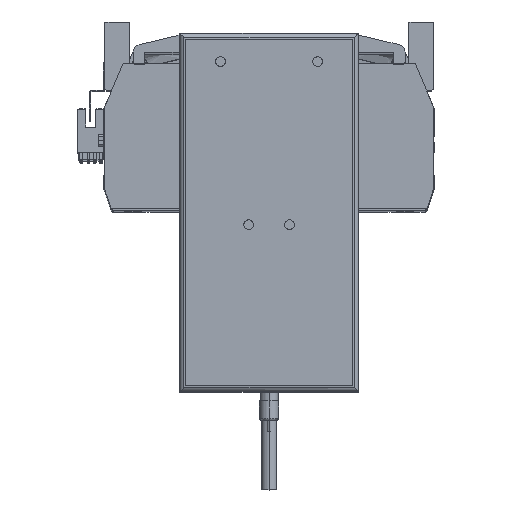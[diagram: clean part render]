
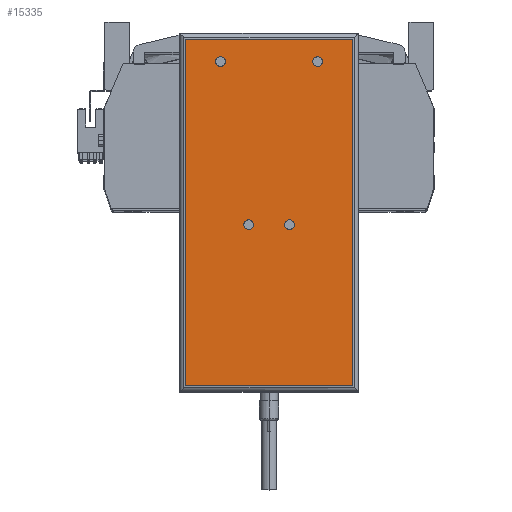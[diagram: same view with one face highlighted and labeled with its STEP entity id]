
A CAD part, top view. The second image highlights one B-rep face of the part: STEP entity #15335.
In plain terms, the highlighted planar face has unit normal (0, 0, 1) as drawn and (0, 0, -1) by its records, which use the part's own axes.
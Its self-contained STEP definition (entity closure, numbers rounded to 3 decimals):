
#351 = AXIS2_PLACEMENT_3D ( 'NONE', #39531, #24095, #35442 ) ;
#809 = FACE_BOUND ( 'NONE', #48482, .T. ) ;
#1193 = CARTESIAN_POINT ( 'NONE',  ( -22.5, 77.75, 0. ) ) ;
#1310 = CARTESIAN_POINT ( 'NONE',  ( 27.5, 77.75, 0. ) ) ;
#2043 = FACE_BOUND ( 'NONE', #13505, .T. ) ;
#2398 = VECTOR ( 'NONE', #39883, 1000. ) ;
#2537 = EDGE_LOOP ( 'NONE', ( #37581, #27082 ) ) ;
#2576 = AXIS2_PLACEMENT_3D ( 'NONE', #9543, #18282, #17936 ) ;
#2961 = CARTESIAN_POINT ( 'NONE',  ( -10.5, -6.25, 0. ) ) ;
#3619 = LINE ( 'NONE', #32094, #2398 ) ;
#3744 = DIRECTION ( 'NONE',  ( -1., 0., 0. ) ) ;
#3822 = VERTEX_POINT ( 'NONE', #29470 ) ;
#4709 = VERTEX_POINT ( 'NONE', #20865 ) ;
#7335 = CARTESIAN_POINT ( 'NONE',  ( 10.5, -6.25, 0. ) ) ;
#7519 = EDGE_CURVE ( 'NONE', #45956, #3822, #16102, .T. ) ;
#8598 = ORIENTED_EDGE ( 'NONE', *, *, #45972, .T. ) ;
#9367 = DIRECTION ( 'NONE',  ( -1., 0., 0. ) ) ;
#9454 = ORIENTED_EDGE ( 'NONE', *, *, #49519, .F. ) ;
#9543 = CARTESIAN_POINT ( 'NONE',  ( -25., 77.75, 0. ) ) ;
#9995 = CARTESIAN_POINT ( 'NONE',  ( 43., -89.25, 0. ) ) ;
#10474 = CARTESIAN_POINT ( 'NONE',  ( 22.5, 77.75, 0. ) ) ;
#10747 = DIRECTION ( 'NONE',  ( 0., 0., -1. ) ) ;
#10884 = EDGE_CURVE ( 'NONE', #14372, #25039, #35292, .T. ) ;
#11051 = EDGE_CURVE ( 'NONE', #3822, #45956, #44411, .T. ) ;
#11828 = CARTESIAN_POINT ( 'NONE',  ( -8., -6.25, 0. ) ) ;
#12392 = VERTEX_POINT ( 'NONE', #41967 ) ;
#13017 = EDGE_CURVE ( 'NONE', #44549, #4709, #22952, .T. ) ;
#13505 = EDGE_LOOP ( 'NONE', ( #39911, #36467 ) ) ;
#13626 = FACE_BOUND ( 'NONE', #2537, .T. ) ;
#14372 = VERTEX_POINT ( 'NONE', #43179 ) ;
#14707 = VECTOR ( 'NONE', #24895, 1000. ) ;
#14958 = EDGE_CURVE ( 'NONE', #12392, #14372, #48929, .T. ) ;
#15335 = ADVANCED_FACE ( 'NONE', ( #34301, #40977, #809, #13626, #2043 ), #16474, .F. ) ;
#15590 = ORIENTED_EDGE ( 'NONE', *, *, #10884, .T. ) ;
#15759 = CIRCLE ( 'NONE', #24358, 2.5 ) ;
#16102 = CIRCLE ( 'NONE', #34957, 2.5 ) ;
#16389 = VERTEX_POINT ( 'NONE', #11828 ) ;
#16474 = PLANE ( 'NONE',  #30998 ) ;
#16644 = DIRECTION ( 'NONE',  ( 0., 0., 1. ) ) ;
#17582 = CIRCLE ( 'NONE', #40173, 2.5 ) ;
#17703 = CARTESIAN_POINT ( 'NONE',  ( 13., -6.25, 0. ) ) ;
#17936 = DIRECTION ( 'NONE',  ( -1., 0., 0. ) ) ;
#18245 = EDGE_CURVE ( 'NONE', #25039, #34090, #3619, .T. ) ;
#18282 = DIRECTION ( 'NONE',  ( 0., 0., -1. ) ) ;
#18833 = CARTESIAN_POINT ( 'NONE',  ( 10.5, -6.25, 0. ) ) ;
#19445 = CARTESIAN_POINT ( 'NONE',  ( 25., 77.75, 0. ) ) ;
#19770 = EDGE_CURVE ( 'NONE', #16389, #34930, #17582, .T. ) ;
#20865 = CARTESIAN_POINT ( 'NONE',  ( -27.5, 77.75, 0. ) ) ;
#21036 = CARTESIAN_POINT ( 'NONE',  ( 43., -92.25, 0. ) ) ;
#21587 = DIRECTION ( 'NONE',  ( 0., 1., 0. ) ) ;
#22103 = CARTESIAN_POINT ( 'NONE',  ( -13., -6.25, 0. ) ) ;
#22593 = VERTEX_POINT ( 'NONE', #10474 ) ;
#22952 = CIRCLE ( 'NONE', #2576, 2.5 ) ;
#24095 = DIRECTION ( 'NONE',  ( 0., 0., -1. ) ) ;
#24196 = CARTESIAN_POINT ( 'NONE',  ( -43., -89.25, 0. ) ) ;
#24358 = AXIS2_PLACEMENT_3D ( 'NONE', #37713, #10747, #41659 ) ;
#24680 = DIRECTION ( 'NONE',  ( 0., 0., -1. ) ) ;
#24895 = DIRECTION ( 'NONE',  ( 0., -1., 0. ) ) ;
#25039 = VERTEX_POINT ( 'NONE', #9995 ) ;
#26668 = EDGE_CURVE ( 'NONE', #47019, #22593, #27264, .T. ) ;
#27082 = ORIENTED_EDGE ( 'NONE', *, *, #13017, .F. ) ;
#27148 = ORIENTED_EDGE ( 'NONE', *, *, #19770, .F. ) ;
#27207 = DIRECTION ( 'NONE',  ( -1., 0., 0. ) ) ;
#27264 = CIRCLE ( 'NONE', #351, 2.5 ) ;
#28747 = VECTOR ( 'NONE', #21587, 1000. ) ;
#29470 = CARTESIAN_POINT ( 'NONE',  ( 8., -6.25, 0. ) ) ;
#30226 = EDGE_CURVE ( 'NONE', #4709, #44549, #35579, .T. ) ;
#30502 = DIRECTION ( 'NONE',  ( 0., 0., -1. ) ) ;
#30735 = VECTOR ( 'NONE', #41279, 1000. ) ;
#30998 = AXIS2_PLACEMENT_3D ( 'NONE', #44991, #16644, #43612 ) ;
#31980 = ORIENTED_EDGE ( 'NONE', *, *, #14958, .T. ) ;
#32094 = CARTESIAN_POINT ( 'NONE',  ( -46., -89.25, 0. ) ) ;
#33630 = CARTESIAN_POINT ( 'NONE',  ( -46., 89.25, 0. ) ) ;
#34090 = VERTEX_POINT ( 'NONE', #24196 ) ;
#34301 = FACE_OUTER_BOUND ( 'NONE', #38859, .T. ) ;
#34930 = VERTEX_POINT ( 'NONE', #22103 ) ;
#34957 = AXIS2_PLACEMENT_3D ( 'NONE', #7335, #30502, #3744 ) ;
#35292 = LINE ( 'NONE', #21036, #14707 ) ;
#35442 = DIRECTION ( 'NONE',  ( -1., 0., 0. ) ) ;
#35579 = CIRCLE ( 'NONE', #48993, 2.5 ) ;
#36467 = ORIENTED_EDGE ( 'NONE', *, *, #26668, .F. ) ;
#36573 = LINE ( 'NONE', #48578, #28747 ) ;
#37581 = ORIENTED_EDGE ( 'NONE', *, *, #30226, .F. ) ;
#37713 = CARTESIAN_POINT ( 'NONE',  ( -10.5, -6.25, 0. ) ) ;
#38371 = CIRCLE ( 'NONE', #44919, 2.5 ) ;
#38859 = EDGE_LOOP ( 'NONE', ( #15590, #42934, #8598, #31980 ) ) ;
#39531 = CARTESIAN_POINT ( 'NONE',  ( 25., 77.75, 0. ) ) ;
#39883 = DIRECTION ( 'NONE',  ( -1., 0., 0. ) ) ;
#39911 = ORIENTED_EDGE ( 'NONE', *, *, #48005, .F. ) ;
#40173 = AXIS2_PLACEMENT_3D ( 'NONE', #2961, #49196, #41723 ) ;
#40475 = CARTESIAN_POINT ( 'NONE',  ( -25., 77.75, 0. ) ) ;
#40977 = FACE_BOUND ( 'NONE', #41242, .T. ) ;
#41242 = EDGE_LOOP ( 'NONE', ( #9454, #27148 ) ) ;
#41279 = DIRECTION ( 'NONE',  ( 1., 0., 0. ) ) ;
#41659 = DIRECTION ( 'NONE',  ( -1., 0., 0. ) ) ;
#41723 = DIRECTION ( 'NONE',  ( -1., 0., 0. ) ) ;
#41967 = CARTESIAN_POINT ( 'NONE',  ( -43., 89.25, 0. ) ) ;
#42556 = DIRECTION ( 'NONE',  ( -1., 0., 0. ) ) ;
#42602 = AXIS2_PLACEMENT_3D ( 'NONE', #18833, #45798, #42556 ) ;
#42934 = ORIENTED_EDGE ( 'NONE', *, *, #18245, .T. ) ;
#43179 = CARTESIAN_POINT ( 'NONE',  ( 43., 89.25, 0. ) ) ;
#43612 = DIRECTION ( 'NONE',  ( 1., 0., 0. ) ) ;
#44411 = CIRCLE ( 'NONE', #42602, 2.5 ) ;
#44549 = VERTEX_POINT ( 'NONE', #1193 ) ;
#44919 = AXIS2_PLACEMENT_3D ( 'NONE', #19445, #46591, #27207 ) ;
#44991 = CARTESIAN_POINT ( 'NONE',  ( -46., -92.25, 0. ) ) ;
#45401 = ORIENTED_EDGE ( 'NONE', *, *, #11051, .F. ) ;
#45798 = DIRECTION ( 'NONE',  ( 0., 0., -1. ) ) ;
#45956 = VERTEX_POINT ( 'NONE', #17703 ) ;
#45972 = EDGE_CURVE ( 'NONE', #34090, #12392, #36573, .T. ) ;
#46591 = DIRECTION ( 'NONE',  ( 0., 0., -1. ) ) ;
#47019 = VERTEX_POINT ( 'NONE', #1310 ) ;
#47464 = ORIENTED_EDGE ( 'NONE', *, *, #7519, .F. ) ;
#48005 = EDGE_CURVE ( 'NONE', #22593, #47019, #38371, .T. ) ;
#48482 = EDGE_LOOP ( 'NONE', ( #45401, #47464 ) ) ;
#48578 = CARTESIAN_POINT ( 'NONE',  ( -43., -92.25, 0. ) ) ;
#48929 = LINE ( 'NONE', #33630, #30735 ) ;
#48993 = AXIS2_PLACEMENT_3D ( 'NONE', #40475, #24680, #9367 ) ;
#49196 = DIRECTION ( 'NONE',  ( 0., 0., -1. ) ) ;
#49519 = EDGE_CURVE ( 'NONE', #34930, #16389, #15759, .T. ) ;
